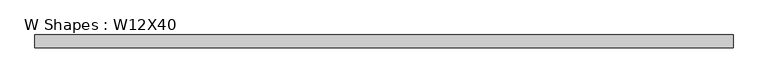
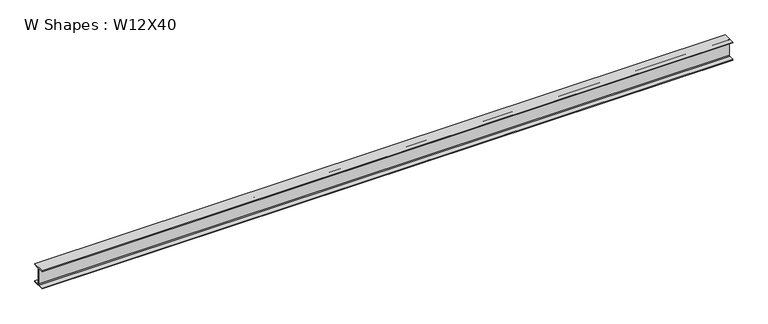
"""IFC4 building model written with IfcOpenShell, lengths in millimetres: beam geometry, W Shapes : W12X40."""

from ifc_helpers import new_model, si_unit, point, frame, frame_2d, origin, place, context, project, spatial, polyline, circle_curve, trimmed, segment, composite_curve, outline, extrude, source, transform, mapped, element, save


def w_shapes_w12x40_cbf18cdb(model_context):
    return source(origin(), model_context, "Body", "SweptSolid", [
        extrude(outline(composite_curve([segment(polyline([(101.727, -138.049), (101.727, -151.13), (-101.727, -151.13), (-101.727, -138.049), (-16.5735, -138.049)]), True, "CONTINUOUS"), segment(trimmed(circle_curve(frame_2d((-16.5735, -125.222)), 12.827), [point((-16.5735, -138.049))], [point((-3.7465, -125.222))], True, "CARTESIAN"), True, "CONTINUOUS"), segment(polyline([(-3.7465, -125.222), (-3.7465, 125.222)]), True, "CONTINUOUS"), segment(trimmed(circle_curve(frame_2d((-16.5735, 125.222)), 12.827), [point((-3.7465, 125.222))], [point((-16.5735, 138.049))], True, "CARTESIAN"), True, "CONTINUOUS"), segment(polyline([(-16.5735, 138.049), (-101.727, 138.049), (-101.727, 151.13), (101.727, 151.13), (101.727, 138.049), (16.5735, 138.049)]), True, "CONTINUOUS"), segment(trimmed(circle_curve(frame_2d((16.5735, 125.222)), 12.827), [point((16.5735, 138.049))], [point((3.7465, 125.222))], True, "CARTESIAN"), True, "CONTINUOUS"), segment(polyline([(3.7465, 125.222), (3.7465, -125.222)]), True, "CONTINUOUS"), segment(trimmed(circle_curve(frame_2d((16.5735, -125.222)), 12.827), [point((3.7465, -125.222))], [point((16.5735, -138.049))], True, "CARTESIAN"), True, "CONTINUOUS"), segment(polyline([(16.5735, -138.049), (101.727, -138.049)]), True, "CONTINUOUS")], self_intersect=False)), frame((-5522.11875, 0.0, 0.0), z_axis=(1.0, 0.0, 0.0), x_axis=(0.0, 1.0, 0.0)), (0.0, 0.0, 1.0), 11044.2375),
    ])


if __name__ == "__main__":
    model = new_model("IFC4")
    model_context = context("Model", 3, world=origin())
    ifc_project = project(units=[si_unit("LENGTHUNIT", "METRE", prefix="MILLI")], contexts=[model_context])
    site = spatial("IfcSite", under=ifc_project)
    building = spatial("IfcBuilding", under=site)
    placement = place(None, origin())
    w_shapes_w12x40_shape = w_shapes_w12x40_cbf18cdb(model_context)
    element("IfcBeam", 1, ObjectType="W Shapes : W12X40", at=placement, inside=building, context=model_context, shape_type="MappedRepresentation", body=[
        mapped(w_shapes_w12x40_shape, transform((0.0, 0.0, 0.0), x_axis=(1.0, 0.0, 0.0), y_axis=(0.0, 1.0, 0.0), z_axis=(0.0, 0.0, 1.0))),
    ])
    save(model, "model.ifc")
